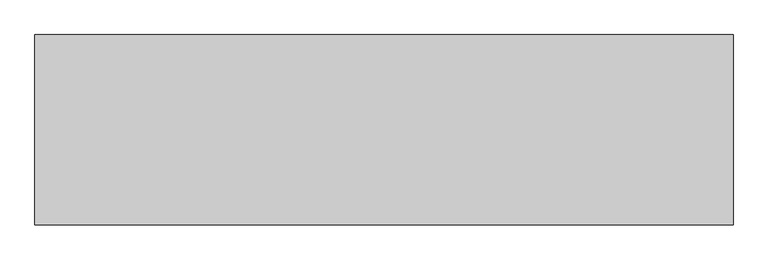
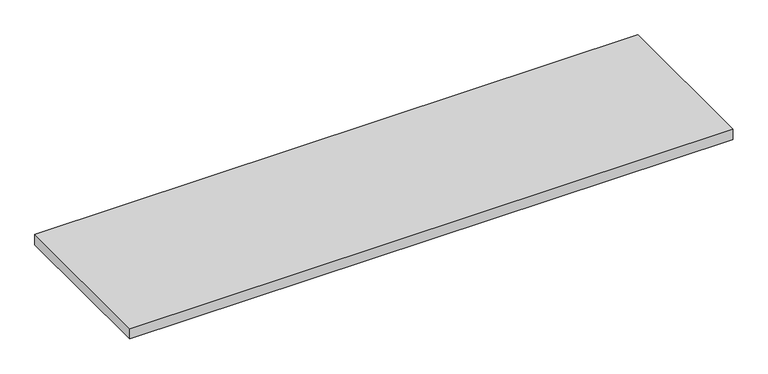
"""IFC4 building model written with IfcOpenShell, lengths in millimetres: proxy geometry, BIMHealth-Worktop-LOD2A-v1 : BIMHealth-Worktop-LOD2A-v1."""

from ifc_helpers import new_model, si_unit, frame, origin, place, context, project, spatial, polyline, outline, extrude, source, transform, mapped, element, save


def generic_models_e594b69c(model_context):
    return source(origin(), model_context, "Body", "SweptSolid", [
        extrude(outline(polyline([(2200.0, 0.0), (2200.0, -600.0), (0.0, -600.0), (0.0, 0.0), (2200.0, 0.0)])), frame((0.0, 0.0, 860.0), z_axis=(0.0, 0.0, 1.0), x_axis=(1.0, 0.0, 0.0)), (0.0, 0.0, 1.0), 40.0),
    ])


if __name__ == "__main__":
    model = new_model("IFC4")
    model_context = context("Model", 3, world=origin())
    ifc_project = project(units=[si_unit("LENGTHUNIT", "METRE", prefix="MILLI")], contexts=[model_context])
    site = spatial("IfcSite", under=ifc_project)
    building = spatial("IfcBuilding", under=site)
    placement = place(None, origin())
    generic_models_shape = generic_models_e594b69c(model_context)
    element("IfcBuildingElementProxy", 1, Name="BIMHealth-Worktop-LOD2A-v1 : BIMHealth-Worktop-LOD2A-v1", ObjectType="BIMHealth-Worktop-LOD2A-v1 : BIMHealth-Worktop-LOD2A-v1", at=placement, inside=building, context=model_context, shape_type="MappedRepresentation", body=[
        mapped(generic_models_shape, transform((0.0, 0.0, 0.0), x_axis=(1.0, 0.0, 0.0), y_axis=(0.0, 1.0, 0.0), z_axis=(0.0, 0.0, 1.0))),
    ])
    save(model, "model.ifc")
